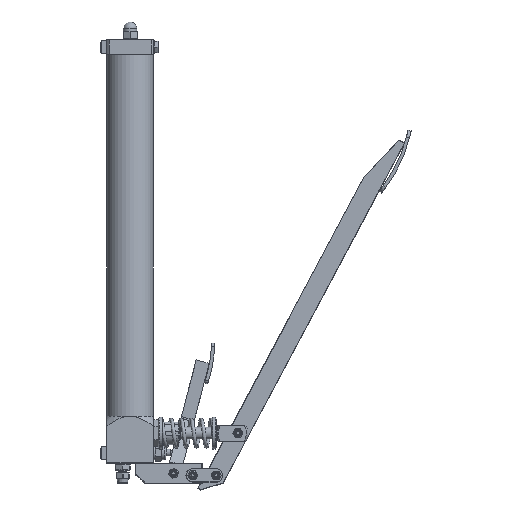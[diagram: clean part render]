
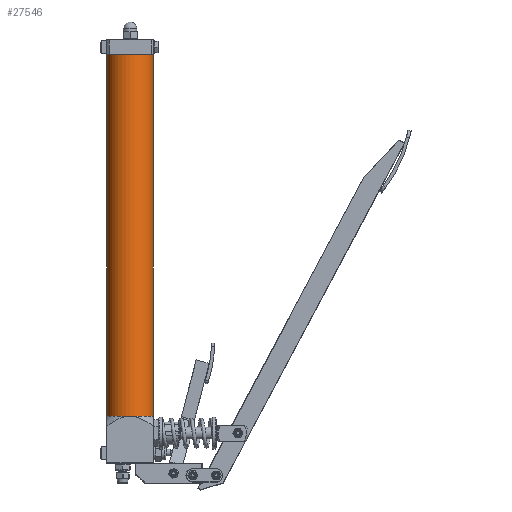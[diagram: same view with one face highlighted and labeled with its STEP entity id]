
A CAD part, front view. The second image highlights one B-rep face of the part: STEP entity #27546.
In plain terms, the highlighted cylindrical face has radius 35 mm (diameter 70 mm), a full revolution.
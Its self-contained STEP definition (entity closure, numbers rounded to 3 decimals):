
#26996=CARTESIAN_POINT('',(-35.0,0.,610.0));
#26997=VERTEX_POINT('',#26996);
#27291=CARTESIAN_POINT('',(-35.0,0.,70.0));
#27292=VERTEX_POINT('',#27291);
#27469=CARTESIAN_POINT('',(0.,0.,70.));
#27470=DIRECTION('',(0.,0.,1.0));
#27471=DIRECTION('',(0.847,0.531,0.));
#27472=AXIS2_PLACEMENT_3D('',#27469,#27470,#27471);
#27473=CYLINDRICAL_SURFACE('',#27472,35.0);
#27474=CARTESIAN_POINT('',(0.,-35.0,610.0));
#27475=VERTEX_POINT('',#27474);
#27476=CARTESIAN_POINT('',(0.,0.,610.));
#27477=DIRECTION('',(0.,0.,1.0));
#27478=DIRECTION('',(0.847,0.531,0.));
#27479=AXIS2_PLACEMENT_3D('',#27476,#27477,#27478);
#27480=CIRCLE('',#27479,35.0);
#27481=EDGE_CURVE('',#26997,#27475,#27480,.T.);
#27482=ORIENTED_EDGE('',*,*,#27481,.F.);
#27483=CARTESIAN_POINT('',(0.,35.0,610.0));
#27484=VERTEX_POINT('',#27483);
#27485=CARTESIAN_POINT('',(0.,0.,610.));
#27486=DIRECTION('',(0.,0.,1.0));
#27487=DIRECTION('',(0.847,0.531,0.));
#27488=AXIS2_PLACEMENT_3D('',#27485,#27486,#27487);
#27489=CIRCLE('',#27488,35.0);
#27490=EDGE_CURVE('',#27484,#26997,#27489,.T.);
#27491=ORIENTED_EDGE('',*,*,#27490,.F.);
#27492=CARTESIAN_POINT('',(35.0,0.,610.0));
#27493=VERTEX_POINT('',#27492);
#27494=CARTESIAN_POINT('',(0.,0.,610.));
#27495=DIRECTION('',(0.,0.,1.0));
#27496=DIRECTION('',(0.847,0.531,0.));
#27497=AXIS2_PLACEMENT_3D('',#27494,#27495,#27496);
#27498=CIRCLE('',#27497,35.0);
#27499=EDGE_CURVE('',#27493,#27484,#27498,.T.);
#27500=ORIENTED_EDGE('',*,*,#27499,.F.);
#27501=CARTESIAN_POINT('',(0.,0.,610.));
#27502=DIRECTION('',(0.,0.,1.0));
#27503=DIRECTION('',(0.847,0.531,0.));
#27504=AXIS2_PLACEMENT_3D('',#27501,#27502,#27503);
#27505=CIRCLE('',#27504,35.0);
#27506=EDGE_CURVE('',#27475,#27493,#27505,.T.);
#27507=ORIENTED_EDGE('',*,*,#27506,.F.);
#27508=EDGE_LOOP('',(#27482,#27491,#27500,#27507));
#27509=FACE_OUTER_BOUND('',#27508,.T.);
#27510=CARTESIAN_POINT('',(0.0,-35.0,70.0));
#27511=VERTEX_POINT('',#27510);
#27512=CARTESIAN_POINT('',(0.0,0.0,70.0));
#27513=DIRECTION('',(0.0,0.0,1.0));
#27514=DIRECTION('',(0.0,-1.0,0.0));
#27515=AXIS2_PLACEMENT_3D('',#27512,#27513,#27514);
#27516=CIRCLE('',#27515,35.);
#27517=EDGE_CURVE('',#27292,#27511,#27516,.T.);
#27518=ORIENTED_EDGE('',*,*,#27517,.T.);
#27519=CARTESIAN_POINT('',(35.0,0.,70.0));
#27520=VERTEX_POINT('',#27519);
#27521=CARTESIAN_POINT('',(0.0,0.0,70.0));
#27522=DIRECTION('',(0.0,0.0,1.0));
#27523=DIRECTION('',(0.0,-1.0,0.0));
#27524=AXIS2_PLACEMENT_3D('',#27521,#27522,#27523);
#27525=CIRCLE('',#27524,35.);
#27526=EDGE_CURVE('',#27511,#27520,#27525,.T.);
#27527=ORIENTED_EDGE('',*,*,#27526,.T.);
#27528=CARTESIAN_POINT('',(0.0,35.0,70.0));
#27529=VERTEX_POINT('',#27528);
#27530=CARTESIAN_POINT('',(0.0,0.0,70.0));
#27531=DIRECTION('',(0.0,0.0,1.0));
#27532=DIRECTION('',(0.0,-1.0,0.0));
#27533=AXIS2_PLACEMENT_3D('',#27530,#27531,#27532);
#27534=CIRCLE('',#27533,35.);
#27535=EDGE_CURVE('',#27520,#27529,#27534,.T.);
#27536=ORIENTED_EDGE('',*,*,#27535,.T.);
#27537=CARTESIAN_POINT('',(0.0,0.0,70.0));
#27538=DIRECTION('',(0.0,0.0,1.0));
#27539=DIRECTION('',(0.0,-1.0,0.0));
#27540=AXIS2_PLACEMENT_3D('',#27537,#27538,#27539);
#27541=CIRCLE('',#27540,35.);
#27542=EDGE_CURVE('',#27529,#27292,#27541,.T.);
#27543=ORIENTED_EDGE('',*,*,#27542,.T.);
#27544=EDGE_LOOP('',(#27518,#27527,#27536,#27543));
#27545=FACE_BOUND('',#27544,.T.);
#27546=ADVANCED_FACE('',(#27509,#27545),#27473,.T.);
